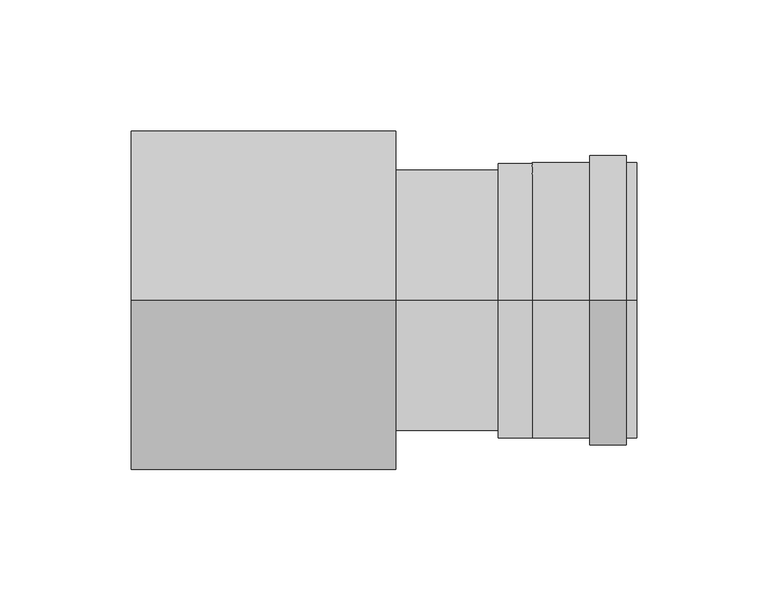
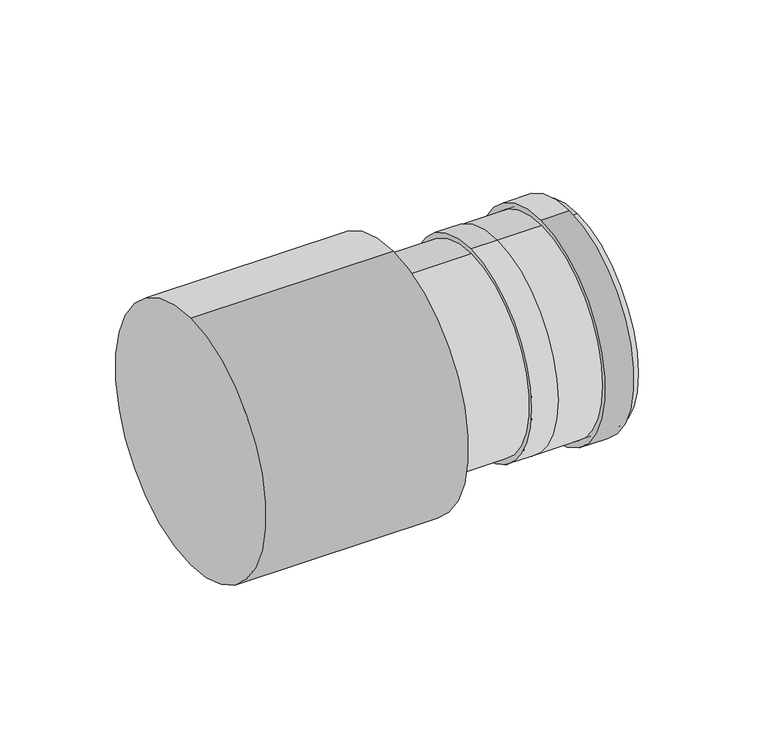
"""IFC4 building model written with IfcOpenShell, lengths in millimetres: duct fitting geometry, NLRS_57_DUF_UN_Twinline Reducer_M&G : ø080-100-150-200."""

import ifcopenshell
import ifcopenshell.guid

model = None  # the IFC model being written
_history = None  # IfcOwnerHistory: only IFC2X3 demands one
_inside = {}  # id of a spatial element -> (the spatial element, [elements in it])
_under = {}  # id of a project, library or spatial element -> (it, [spatial elements below it])
_declared = {}  # id of a project -> (the project, [libraries it declares])
_typed = {}  # id of a type object -> (the type object, [elements of that type])
_made_of = {}  # id of a material, layer set ... -> (it, [elements and type objects made of it])


def new_model(schema):
    """Start an empty IFC model of exactly this schema.

    Asked for "IFC4X3", IfcOpenShell would pick the latest addendum, in which some entities
    have other attributes; the version numbers below select the first issue.
    IFC2X3 requires an IfcOwnerHistory on every rooted entity: one is made here for all.
    """
    global model, _history
    if schema == "IFC4X3":
        model = ifcopenshell.file(schema_version=(4, 3, 0, 0))
    else:
        model = ifcopenshell.file(schema=schema)
    _inside.clear()
    _under.clear()
    _declared.clear()
    _typed.clear()
    _made_of.clear()
    _history = None
    if model.schema == "IFC2X3":
        org = make("IfcOrganization", Name="unknown")
        user = make(
            "IfcPersonAndOrganization",
            ThePerson=make("IfcPerson", FamilyName="unknown"),
            TheOrganization=org,
        )
        app = make(
            "IfcApplication",
            ApplicationDeveloper=org,
            Version="unknown",
            ApplicationFullName="unknown",
            ApplicationIdentifier="unknown",
        )
        _history = make(
            "IfcOwnerHistory",
            OwningUser=user,
            OwningApplication=app,
            ChangeAction="ADDED",
            CreationDate=0,
        )
    return model


def make(cls, **values):
    """One entity of the class cls with the attributes given. An attribute that is None is left unset."""
    return model.create_entity(
        cls, **{name: value for name, value in values.items() if value is not None}
    )


def rooted(cls, **values):
    """An entity with a GlobalId (a new one), such as an element, a storey or a relation."""
    return make(cls, GlobalId=ifcopenshell.guid.new(), OwnerHistory=_history, **values)


def si_unit(unit_type, name, prefix=None):
    """IfcSIUnit, for example si_unit("LENGTHUNIT", "METRE", prefix="MILLI")."""
    return make("IfcSIUnit", UnitType=unit_type, Prefix=prefix, Name=name)


def assignment(units):
    """IfcUnitAssignment: the units of a project."""
    return None if units is None else make("IfcUnitAssignment", Units=units)


def point(xyz):
    """IfcCartesianPoint."""
    return None if xyz is None else make("IfcCartesianPoint", Coordinates=xyz)


def direction(xyz):
    """IfcDirection."""
    return None if xyz is None else make("IfcDirection", DirectionRatios=xyz)


def frame(location, z_axis=None, x_axis=None):
    """IfcAxis2Placement3D, a coordinate frame: its origin and axes. An axis left out is left unset."""
    return make(
        "IfcAxis2Placement3D",
        Location=point(location),
        Axis=direction(z_axis),
        RefDirection=direction(x_axis),
    )


def frame_2d(location, x_axis=None):
    """IfcAxis2Placement2D, a coordinate frame in the plane: its origin and x axis."""
    return make(
        "IfcAxis2Placement2D", Location=point(location), RefDirection=direction(x_axis)
    )


def origin():
    """The frame at (0, 0, 0) with its axes left unset."""
    return frame((0.0, 0.0, 0.0))


def origin_2d():
    """The frame at (0, 0) in the plane with its x axis left unset."""
    return frame_2d((0.0, 0.0))


def place(relative_to, where):
    """IfcLocalPlacement: puts the frame where relative to a parent placement (None: the world)."""
    return make(
        "IfcLocalPlacement", PlacementRelTo=relative_to, RelativePlacement=where
    )


def context(
    kind, dimensions, precision=None, world=None, true_north=None, identifier=None
):
    """IfcGeometricRepresentationContext, for example the 3D "Model" context."""
    return make(
        "IfcGeometricRepresentationContext",
        ContextIdentifier=identifier,
        ContextType=kind,
        CoordinateSpaceDimension=dimensions,
        Precision=precision,
        WorldCoordinateSystem=world,
        TrueNorth=true_north,
    )


def project(units=None, contexts=None):
    """IfcProject with its units and contexts."""
    return rooted(
        "IfcProject",
        Name="project",
        RepresentationContexts=contexts,
        UnitsInContext=assignment(units),
    )


def spatial(cls, under=None, at=None, **own):
    """A site, building, storey or space (cls), placed at a placement, below another one or the project."""
    s = rooted(cls, ObjectPlacement=at, **own)
    if under is not None:
        _under.setdefault(under.id(), (under, []))[1].append(s)
    return s


def polyline(points):
    """IfcPolyline through the points."""
    return make("IfcPolyline", Points=[point(p) for p in points])


def circle_curve(where, radius):
    """IfcCircle in the frame where."""
    return make("IfcCircle", Position=where, Radius=radius)


def trimmed(basis, trim1, trim2, sense, master):
    """IfcTrimmedCurve: the piece of a basis curve between two trims."""
    return make(
        "IfcTrimmedCurve",
        BasisCurve=basis,
        Trim1=trim1,
        Trim2=trim2,
        SenseAgreement=sense,
        MasterRepresentation=master,
    )


def segment(curve, same_sense, transition):
    """IfcCompositeCurveSegment."""
    return make(
        "IfcCompositeCurveSegment",
        Transition=transition,
        SameSense=same_sense,
        ParentCurve=curve,
    )


def composite_curve(segments, self_intersect=None):
    """IfcCompositeCurve: segments joined end to end."""
    return make("IfcCompositeCurve", Segments=segments, SelfIntersect=self_intersect)


def outline(outer, holes=None, kind="AREA"):
    """IfcArbitraryClosedProfileDef: a profile drawn as a closed curve; with holes, ...WithVoids."""
    if holes is None:
        return make("IfcArbitraryClosedProfileDef", ProfileType=kind, OuterCurve=outer)
    return make(
        "IfcArbitraryProfileDefWithVoids",
        ProfileType=kind,
        OuterCurve=outer,
        InnerCurves=holes,
    )


def extrude(swept, where, along, depth):
    """IfcExtrudedAreaSolid: the profile swept, set in the frame where, extruded along a direction by depth."""
    return make(
        "IfcExtrudedAreaSolid",
        SweptArea=swept,
        Position=where,
        ExtrudedDirection=direction(along),
        Depth=depth,
    )


def shape(context_of_items, identifier, shape_type, items):
    """IfcShapeRepresentation: the items that make up one representation, for example the "Body"."""
    return make(
        "IfcShapeRepresentation",
        ContextOfItems=context_of_items,
        RepresentationIdentifier=identifier,
        RepresentationType=shape_type,
        Items=items,
    )


def source(mapping_origin, context_of_items, identifier, shape_type, items):
    """IfcRepresentationMap: a shape defined once, which mapped items show again and again."""
    return make(
        "IfcRepresentationMap",
        MappingOrigin=mapping_origin,
        MappedRepresentation=shape(context_of_items, identifier, shape_type, items),
    )


def transform(
    local_origin,
    x_axis=None,
    y_axis=None,
    z_axis=None,
    scale=None,
    scale2=None,
    scale3=None,
    uniform=True,
):
    """IfcCartesianTransformationOperator3D, or its non-uniform kind. x_axis, y_axis, z_axis: its Axis1, 2, 3."""
    if uniform:
        return make(
            "IfcCartesianTransformationOperator3D",
            Axis1=direction(x_axis),
            Axis2=direction(y_axis),
            LocalOrigin=point(local_origin),
            Scale=scale,
            Axis3=direction(z_axis),
        )
    return make(
        "IfcCartesianTransformationOperator3DnonUniform",
        Axis1=direction(x_axis),
        Axis2=direction(y_axis),
        LocalOrigin=point(local_origin),
        Scale=scale,
        Axis3=direction(z_axis),
        Scale2=scale2,
        Scale3=scale3,
    )


def mapped(mapping_source, mapping_target):
    """IfcMappedItem: shows the shape of a source again, moved by a transform."""
    return make(
        "IfcMappedItem", MappingSource=mapping_source, MappingTarget=mapping_target
    )


def made_of(thing, what):
    """Note that an element or type object is made of a material, layer set ...; save() writes the relation."""
    if what is not None:
        _made_of.setdefault(what.id(), (what, []))[1].append(thing)
    return thing


def element(
    cls,
    number,
    at=None,
    inside=None,
    cuts=None,
    type_object=None,
    material=None,
    context=None,
    identifier="Body",
    shape_type=None,
    held_by="IfcProductDefinitionShape",
    body=None,
    shapes=None,
    **own,
):
    """One element of the class cls, such as IfcWall. Its Tag is "e" and its number.

    at: its placement. inside: the storey or other place that contains it. cuts: it is an
    opening in that element (IfcRelVoidsElement). A single representation is given by context,
    identifier, shape_type and body (its items); several are given by shapes. held_by: the class
    of the entity that holds the representations. save() writes the other relations.
    """
    e = rooted(cls, Tag="e%d" % number, ObjectPlacement=at, **own)
    if body is not None:
        shapes = [shape(context, identifier, shape_type, body)]
    if shapes is not None:
        e.Representation = make(held_by, Representations=shapes)
    if inside is not None:
        _inside.setdefault(inside.id(), (inside, []))[1].append(e)
    if cuts is not None:
        rooted(
            "IfcRelVoidsElement", RelatingBuildingElement=cuts, RelatedOpeningElement=e
        )
    if type_object is not None:
        _typed.setdefault(type_object.id(), (type_object, []))[1].append(e)
    return made_of(e, material)


def aggregate(whole, parts):
    """IfcRelAggregates: a whole, such as a stair, and the parts it consists of."""
    return rooted("IfcRelAggregates", RelatingObject=whole, RelatedObjects=parts)


def save(model, path):
    """Write the relations noted so far, then the file.

    IfcRelAggregates (storeys below a building ...), IfcRelContainedInSpatialStructure (elements
    in a storey), IfcRelDefinesByType, IfcRelAssociatesMaterial and IfcRelDeclares: one each for
    every whole, place, type object, material and project.
    """
    for whole, parts in _under.values():
        aggregate(whole, parts)
    for where, things in _inside.values():
        rooted(
            "IfcRelContainedInSpatialStructure",
            RelatedElements=things,
            RelatingStructure=where,
        )
    for kind, things in _typed.values():
        rooted("IfcRelDefinesByType", RelatedObjects=things, RelatingType=kind)
    for what, things in _made_of.values():
        rooted("IfcRelAssociatesMaterial", RelatedObjects=things, RelatingMaterial=what)
    for by, libraries in _declared.values():
        rooted("IfcRelDeclares", RelatingContext=by, RelatedDefinitions=libraries)
    model.write(path)


def plane_surface(at):
    """IfcPlane: the flat surface through the origin of the frame at, square to its z axis."""
    return make("IfcPlane", Position=at)


def cylinder_surface(at, radius):
    """IfcCylindricalSurface: all points at the distance radius from the z axis of the frame at."""
    return make("IfcCylindricalSurface", Position=at, Radius=radius)


def revolved_surface(curve, axis_point, axis_direction):
    """IfcSurfaceOfRevolution: the curve turned about the line through axis_point along axis_direction."""
    return make(
        "IfcSurfaceOfRevolution",
        SweptCurve=make("IfcArbitraryOpenProfileDef", ProfileType="CURVE", Curve=curve),
        AxisPosition=make("IfcAxis1Placement", Location=point(axis_point), Axis=direction(axis_direction)),
    )


def advanced_brep(points, edges, surfaces, faces):
    """IfcAdvancedBrep: a solid bounded by faces that lie on surfaces and meet in shared edges.

    An edge is (start, end): straight between two places in points (the first is 0);
    or (start, end, curve); or (start, end, curve, False) where it runs against its curve.
    A face is (place in surfaces, loops), or (place, loops, False) where it looks against
    its surface's normal. A loop lists edges by number (the first is 1), with a minus sign
    where the edge is run from its end to its start. The first loop is the outer one.
    """
    corners = [point(p) for p in points]
    vertices = [make("IfcVertexPoint", VertexGeometry=c) for c in corners]
    made = []
    for start, end, *more in edges:
        made.append(
            make(
                "IfcEdgeCurve",
                EdgeStart=vertices[start],
                EdgeEnd=vertices[end],
                EdgeGeometry=more[0] if more else make("IfcPolyline", Points=[corners[start], corners[end]]),
                SameSense=more[1] if len(more) > 1 else True,
            )
        )
    hull = []
    for where, loops, *sense in faces:
        bounds = []
        for j, loop in enumerate(loops):
            ring = [make("IfcOrientedEdge", EdgeElement=made[abs(k) - 1], Orientation=k > 0) for k in loop]
            bounds.append(
                make(
                    "IfcFaceOuterBound" if j == 0 else "IfcFaceBound",
                    Bound=make("IfcEdgeLoop", EdgeList=ring),
                    Orientation=True,
                )
            )
        hull.append(make("IfcAdvancedFace", Bounds=bounds, FaceSurface=surfaces[where], SameSense=sense[0] if sense else True))
    return make("IfcAdvancedBrep", Outer=make("IfcClosedShell", CfsFaces=hull))


def duct_fitting_b8df35ce(model_context):
    return source(origin(), model_context, "Body", "SolidModel", [
        advanced_brep(
        [(101.0, 0.0, 50.0), (101.0, 0.0, -50.0), (140.0, 0.0, -50.0), (140.0, 0.0, 50.0), (153.0, 0.0, 50.5), (153.0, 0.0, -50.5), (140.0, 0.0, 52.5), (140.0, 0.0, -52.5), (153.0, 0.0, -52.5), (153.0, 0.0, 52.5), (193.0, 0.0, 52.5), (193.0, 0.0, -52.5), (193.0, 0.0, -50.5), (193.0, 0.0, 50.5)],
        [
            (0, 1, circle_curve(frame((101.0, 0.0, 0.0), z_axis=(-1.0, 0.0, 0.0), x_axis=(0.0, 0.0, -1.0)), 50.0)),
            (1, 0, circle_curve(frame((101.0, 0.0, 0.0), z_axis=(-1.0, 0.0, 0.0), x_axis=(0.0, 0.0, -1.0)), 50.0)),
            (1, 2),
            (2, 3, circle_curve(frame((140.0, 0.0, 0.0), z_axis=(-1.0, 0.0, 0.0), x_axis=(0.0, 0.0, -1.0)), 50.0)),
            (3, 0),
            (3, 2, circle_curve(frame((140.0, 0.0, 0.0), z_axis=(-1.0, 0.0, 0.0), x_axis=(0.0, 0.0, -1.0)), 50.0)),
            (4, 5, circle_curve(frame((153.0, 0.0, 0.0), z_axis=(1.0, 0.0, 0.0), x_axis=(0.0, 0.0, 1.0)), 50.5)),
            (5, 4, circle_curve(frame((153.0, 0.0, 0.0), z_axis=(1.0, 0.0, 0.0), x_axis=(0.0, 0.0, 1.0)), 50.5)),
            (6, 7, circle_curve(frame((140.0, 0.0, 0.0), z_axis=(1.0, 0.0, 0.0), x_axis=(0.0, 0.0, -1.0)), 52.5)),
            (7, 8),
            (8, 9, circle_curve(frame((153.0, 0.0, 0.0), z_axis=(-1.0, 0.0, 0.0), x_axis=(0.0, 0.0, -1.0)), 52.5)),
            (9, 6),
            (7, 6, circle_curve(frame((140.0, 0.0, 0.0), z_axis=(1.0, 0.0, 0.0), x_axis=(0.0, 0.0, -1.0)), 52.5)),
            (9, 8, circle_curve(frame((153.0, 0.0, 0.0), z_axis=(-1.0, 0.0, 0.0), x_axis=(0.0, 0.0, -1.0)), 52.5)),
            (10, 11, circle_curve(frame((193.0, 0.0, 0.0), z_axis=(1.0, 0.0, 0.0), x_axis=(0.0, 0.0, -1.0)), 52.5)),
            (11, 10, circle_curve(frame((193.0, 0.0, 0.0), z_axis=(1.0, 0.0, 0.0), x_axis=(0.0, 0.0, -1.0)), 52.5)),
            (12, 13, circle_curve(frame((193.0, 0.0, 0.0), z_axis=(-1.0, 0.0, 0.0), x_axis=(0.0, 0.0, 1.0)), 50.5)),
            (13, 12, circle_curve(frame((193.0, 0.0, 0.0), z_axis=(-1.0, 0.0, 0.0), x_axis=(0.0, 0.0, 1.0)), 50.5)),
            (10, 9),
            (8, 11),
            (12, 5),
            (4, 13),
        ],
        [
            plane_surface(frame((101.0, 0.0, -50.0), z_axis=(-1.0, 0.0, 0.0), x_axis=(0.0, -1.0, 0.0))),
            cylinder_surface(frame((101.0, 0.0, 0.0), z_axis=(1.0, 0.0, 0.0), x_axis=(0.0, 0.0, -1.0)), 50.0),
            plane_surface(frame((153.0, 0.0, -52.5), z_axis=(1.0, 0.0, 0.0), x_axis=(0.0, 1.0, 0.0))),
            cylinder_surface(frame((140.0, 0.0, 0.0), z_axis=(1.0, 0.0, 0.0), x_axis=(0.0, 0.0, -1.0)), 52.5),
            plane_surface(frame((193.0, 0.0, -52.5), z_axis=(1.0, 0.0, 0.0), x_axis=(0.0, 1.0, 0.0))),
            cylinder_surface(frame((153.0, 0.0, 0.0), z_axis=(1.0, 0.0, 0.0), x_axis=(0.0, 0.0, -1.0)), 52.5),
            revolved_surface(polyline([(153.0, 0.0, 50.5), (193.0, 0.0, 50.5)]), (203.0, 0.0, 0.0), (-1.0, 0.0, 0.0)),
            plane_surface(frame((140.0, 0.0, -52.5), z_axis=(-1.0, 0.0, 0.0), x_axis=(0.0, -1.0, 0.0))),
        ],
        [
            (0, [[1, 2]]),
            (1, [[-2, 3, 4, 5]]),
            (1, [[-1, -5, 6, -3]]),
            (2, [[7, 8]]),
            (3, [[9, 10, 11, 12]]),
            (3, [[13, -12, 14, -10]]),
            (4, [[15, 16], [17, 18]]),
            (5, [[-15, 19, -11, 20]]),
            (5, [[-16, -20, -14, -19]]),
            (6, [[21, -7, 22, -17]]),
            (6, [[-21, -18, -22, -8]]),
            (7, [[-13, -9], [-4, -6]]),
        ],
    ),
        extrude(outline(composite_curve([segment(trimmed(circle_curve(origin_2d(), 55.5), [point((0.0, 55.5))], [point((0.0, -55.5))], False, "CARTESIAN"), True, "CONTINUOUS"), segment(trimmed(circle_curve(origin_2d(), 55.5), [point((0.0, -55.5))], [point((0.0, 55.5))], False, "CARTESIAN"), True, "CONTINUOUS")], self_intersect=False), holes=[composite_curve([segment(trimmed(circle_curve(origin_2d(), 52.5), [point((0.0, -52.5))], [point((0.0, 52.5))], True, "CARTESIAN"), True, "CONTINUOUS"), segment(trimmed(circle_curve(origin_2d(), 52.5), [point((0.0, 52.5))], [point((0.0, -52.5))], True, "CARTESIAN"), True, "CONTINUOUS")], self_intersect=False)]), frame((175.0, 0.0, 0.0), z_axis=(1.0, 0.0, 0.0), x_axis=(0.0, 1.0, 0.0)), (0.0, 0.0, 1.0), 14.0),
        extrude(outline(composite_curve([segment(trimmed(circle_curve(origin_2d(), 65.0), [point((0.0, -65.0))], [point((0.0, 65.0))], False, "CARTESIAN"), True, "CONTINUOUS"), segment(trimmed(circle_curve(origin_2d(), 65.0), [point((0.0, 65.0))], [point((0.0, -65.0))], False, "CARTESIAN"), True, "CONTINUOUS")], self_intersect=False)), frame((0.0, 0.0, 0.0), z_axis=(1.0, 0.0, 0.0), x_axis=(0.0, 1.0, 0.0)), (0.0, 0.0, 1.0), 101.0),
    ])


if __name__ == "__main__":
    model = new_model("IFC4")
    model_context = context("Model", 3, world=origin())
    ifc_project = project(units=[si_unit("LENGTHUNIT", "METRE", prefix="MILLI")], contexts=[model_context])
    site = spatial("IfcSite", under=ifc_project)
    building = spatial("IfcBuilding", under=site)
    placement = place(None, origin())
    duct_fitting_shape = duct_fitting_b8df35ce(model_context)
    element("IfcDuctFitting", 1, ObjectType="NLRS_57_DUF_UN_Twinline Reducer_M&G : ø080-100-150-200", at=placement, inside=building, context=model_context, shape_type="MappedRepresentation", body=[
        mapped(duct_fitting_shape, transform((0.0, 0.0, 0.0), x_axis=(1.0, 0.0, 0.0), y_axis=(0.0, 1.0, 0.0), z_axis=(0.0, 0.0, 1.0))),
    ])
    save(model, "model.ifc")
